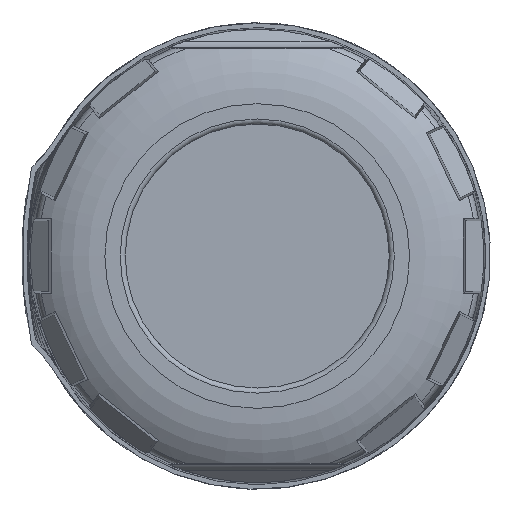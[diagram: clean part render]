
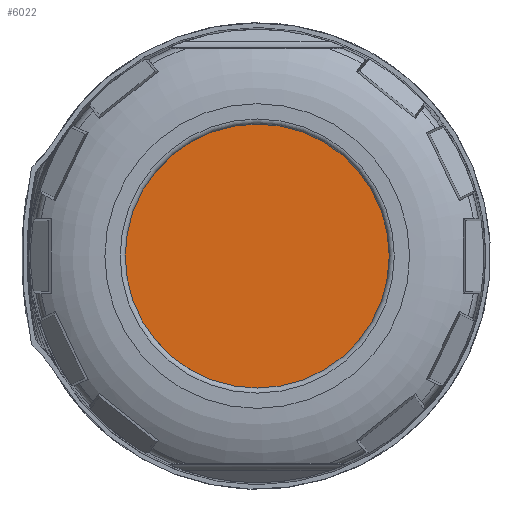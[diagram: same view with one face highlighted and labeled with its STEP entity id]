
A CAD part, left-side view. The second image highlights one B-rep face of the part: STEP entity #6022.
In plain terms, the highlighted planar face has unit normal (-1, 0, 0).
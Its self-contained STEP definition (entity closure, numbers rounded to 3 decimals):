
#1015=PLANE('',#6380);
#1288=FACE_OUTER_BOUND('',#1624,.T.);
#1624=EDGE_LOOP('',(#3979));
#1965=CIRCLE('',#6381,13.008);
#2248=VERTEX_POINT('',#8435);
#2978=EDGE_CURVE('',#2248,#2248,#1965,.T.);
#3979=ORIENTED_EDGE('',*,*,#2978,.F.);
#6022=ADVANCED_FACE('',(#1288),#1015,.T.);
#6380=AXIS2_PLACEMENT_3D('',#8434,#7113,#7114);
#6381=AXIS2_PLACEMENT_3D('',#8436,#7115,#7116);
#7113=DIRECTION('center_axis',(-1.,0.,0.));
#7114=DIRECTION('ref_axis',(0.,1.,0.));
#7115=DIRECTION('center_axis',(1.,0.,0.));
#7116=DIRECTION('ref_axis',(0.,-1.,0.));
#8434=CARTESIAN_POINT('Origin',(-25.85,-23.135,23.135));
#8435=CARTESIAN_POINT('',(-25.85,13.008,0.));
#8436=CARTESIAN_POINT('Origin',(-25.85,0.,0.));
